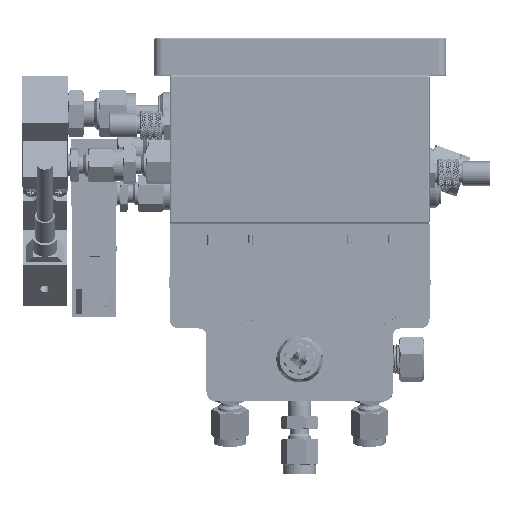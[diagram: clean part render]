
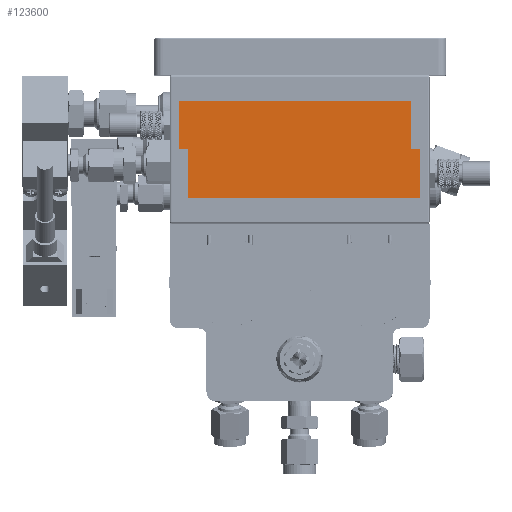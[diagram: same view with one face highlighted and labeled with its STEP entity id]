
A CAD part, top view. The second image highlights one B-rep face of the part: STEP entity #123600.
In plain terms, the highlighted planar face has unit normal (0, 0, 1).
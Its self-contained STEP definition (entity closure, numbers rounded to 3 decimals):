
#4254 = VECTOR ( 'NONE', #145909, 1000. ) ;
#5182 = CARTESIAN_POINT ( 'NONE',  ( 41.275, -12.065, -0.635 ) ) ;
#6568 = DIRECTION ( 'NONE',  ( 0., -1., 0. ) ) ;
#17215 = DIRECTION ( 'NONE',  ( -1., 0., 0. ) ) ;
#22855 = VECTOR ( 'NONE', #17215, 1000. ) ;
#24353 = VERTEX_POINT ( 'NONE', #130497 ) ;
#24547 = CARTESIAN_POINT ( 'NONE',  ( -38.1, 12.7, -0.635 ) ) ;
#25067 = ORIENTED_EDGE ( 'NONE', *, *, #229405, .T. ) ;
#27376 = DIRECTION ( 'NONE',  ( 0., -1., 0. ) ) ;
#31066 = DIRECTION ( 'NONE',  ( 1., 0., 0. ) ) ;
#36305 = CARTESIAN_POINT ( 'NONE',  ( 43.815, 29.21, -0.635 ) ) ;
#39641 = LINE ( 'NONE', #5182, #160508 ) ;
#40966 = ORIENTED_EDGE ( 'NONE', *, *, #51951, .T. ) ;
#42094 = CARTESIAN_POINT ( 'NONE',  ( 41.275, 12.7, -0.635 ) ) ;
#46578 = VECTOR ( 'NONE', #27376, 1000. ) ;
#50166 = CARTESIAN_POINT ( 'NONE',  ( 43.815, -3.81, -0.635 ) ) ;
#50531 = ORIENTED_EDGE ( 'NONE', *, *, #222084, .T. ) ;
#51951 = EDGE_CURVE ( 'NONE', #77541, #154301, #232394, .T. ) ;
#54295 = PLANE ( 'NONE',  #200559 ) ;
#54323 = VERTEX_POINT ( 'NONE', #213018 ) ;
#56240 = ORIENTED_EDGE ( 'NONE', *, *, #227309, .T. ) ;
#59767 = CARTESIAN_POINT ( 'NONE',  ( 41.275, -3.81, -0.635 ) ) ;
#60294 = DIRECTION ( 'NONE',  ( 0., 1., 0. ) ) ;
#72038 = DIRECTION ( 'NONE',  ( 0., 0., 1. ) ) ;
#75982 = DIRECTION ( 'NONE',  ( 1., 0., 0. ) ) ;
#77541 = VERTEX_POINT ( 'NONE', #97382 ) ;
#89716 = VERTEX_POINT ( 'NONE', #59767 ) ;
#90589 = VERTEX_POINT ( 'NONE', #42094 ) ;
#97382 = CARTESIAN_POINT ( 'NONE',  ( -41.275, 29.21, -0.635 ) ) ;
#107907 = CARTESIAN_POINT ( 'NONE',  ( 43.815, 12.7, -0.635 ) ) ;
#123600 = ADVANCED_FACE ( 'NONE', ( #153449 ), #54295, .T. ) ;
#125829 = CARTESIAN_POINT ( 'NONE',  ( -41.275, 12.7, -0.635 ) ) ;
#130497 = CARTESIAN_POINT ( 'NONE',  ( -38.1, -3.81, -0.635 ) ) ;
#132670 = EDGE_LOOP ( 'NONE', ( #40966, #184124, #25067, #56240, #50531, #255982, #136784, #238868 ) ) ;
#136784 = ORIENTED_EDGE ( 'NONE', *, *, #147576, .T. ) ;
#141022 = VECTOR ( 'NONE', #150848, 1000. ) ;
#145909 = DIRECTION ( 'NONE',  ( 1., 0., 0. ) ) ;
#146500 = EDGE_CURVE ( 'NONE', #54323, #77541, #203253, .T. ) ;
#146807 = LINE ( 'NONE', #190290, #141022 ) ;
#147576 = EDGE_CURVE ( 'NONE', #236604, #54323, #265232, .T. ) ;
#150848 = DIRECTION ( 'NONE',  ( -1., 0., 0. ) ) ;
#153449 = FACE_OUTER_BOUND ( 'NONE', #132670, .T. ) ;
#154301 = VERTEX_POINT ( 'NONE', #125829 ) ;
#156485 = VECTOR ( 'NONE', #6568, 1000. ) ;
#160508 = VECTOR ( 'NONE', #211587, 1000. ) ;
#168614 = CARTESIAN_POINT ( 'NONE',  ( -41.275, -12.065, -0.635 ) ) ;
#168853 = VECTOR ( 'NONE', #31066, 1000. ) ;
#180109 = EDGE_CURVE ( 'NONE', #154301, #230024, #226014, .T. ) ;
#184124 = ORIENTED_EDGE ( 'NONE', *, *, #180109, .T. ) ;
#189989 = LINE ( 'NONE', #192674, #156485 ) ;
#190290 = CARTESIAN_POINT ( 'NONE',  ( 43.815, 12.7, -0.635 ) ) ;
#192674 = CARTESIAN_POINT ( 'NONE',  ( -38.1, -12.065, -0.635 ) ) ;
#200559 = AXIS2_PLACEMENT_3D ( 'NONE', #257905, #72038, #75982 ) ;
#202856 = EDGE_CURVE ( 'NONE', #90589, #236604, #146807, .T. ) ;
#203253 = LINE ( 'NONE', #36305, #22855 ) ;
#205245 = VECTOR ( 'NONE', #60294, 1000. ) ;
#211587 = DIRECTION ( 'NONE',  ( 0., 1., 0. ) ) ;
#213018 = CARTESIAN_POINT ( 'NONE',  ( 38.1, 29.21, -0.635 ) ) ;
#217019 = LINE ( 'NONE', #50166, #168853 ) ;
#222084 = EDGE_CURVE ( 'NONE', #89716, #90589, #39641, .T. ) ;
#226014 = LINE ( 'NONE', #107907, #4254 ) ;
#227309 = EDGE_CURVE ( 'NONE', #24353, #89716, #217019, .T. ) ;
#229405 = EDGE_CURVE ( 'NONE', #230024, #24353, #189989, .T. ) ;
#230024 = VERTEX_POINT ( 'NONE', #24547 ) ;
#232394 = LINE ( 'NONE', #168614, #46578 ) ;
#236604 = VERTEX_POINT ( 'NONE', #260857 ) ;
#238868 = ORIENTED_EDGE ( 'NONE', *, *, #146500, .T. ) ;
#243505 = CARTESIAN_POINT ( 'NONE',  ( 38.1, -12.065, -0.635 ) ) ;
#255982 = ORIENTED_EDGE ( 'NONE', *, *, #202856, .T. ) ;
#257905 = CARTESIAN_POINT ( 'NONE',  ( 43.815, -12.065, -0.635 ) ) ;
#260857 = CARTESIAN_POINT ( 'NONE',  ( 38.1, 12.7, -0.635 ) ) ;
#265232 = LINE ( 'NONE', #243505, #205245 ) ;
